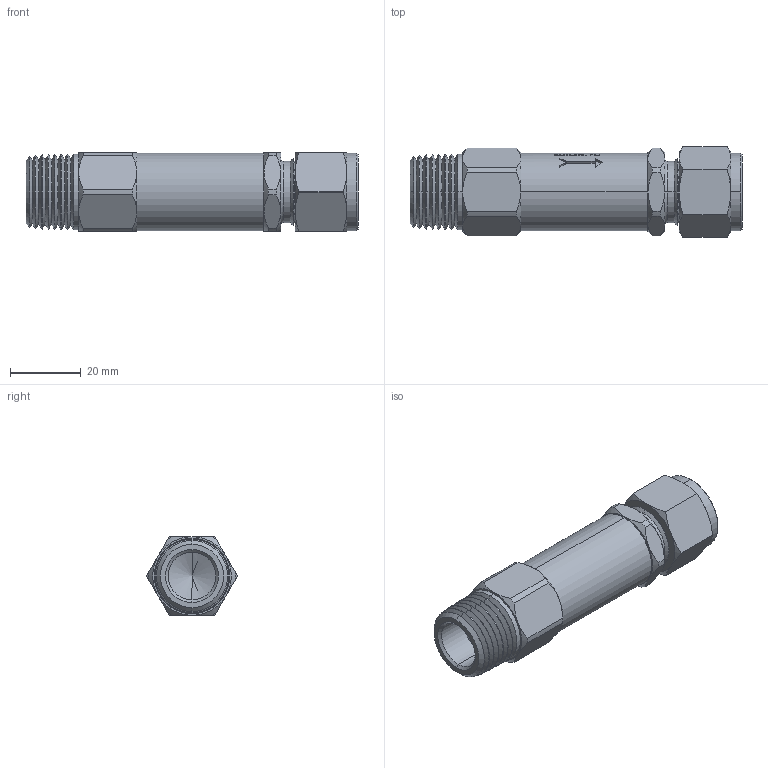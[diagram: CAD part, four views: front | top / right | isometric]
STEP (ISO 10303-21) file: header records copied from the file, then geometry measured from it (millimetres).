
FILE_DESCRIPTION (( 'STEP AP203' ), '1' );
FILE_NAME ('IRV8T.STEP', '2020-08-13T14:52:44', ( '' ), ( '' ), 'SwSTEP 2.0', 'SolidWorks 2020', '' );
FILE_SCHEMA (( 'CONFIG_CONTROL_DESIGN' ));
Length unit declared in the file: inch
Products named in the file (2): Part4^IRV8T; IRV8T
Assembly tree (1 placements, depth 2):
  IRV8T
    Part4^IRV8T
Bounding box: 93.83 x 25.65 x 22.23 mm (x, y, z)
Volume: 30837.2 mm3; surface area: 9829.9 mm2
Topology: 1 solids, 1 shells, 394 faces, 974 edges, 610 vertices
Faces by surface type: plane 157, cone 104, bspline 70, cylinder 61, torus 2
Entity records: 16567 total; most frequent: CARTESIAN_POINT 7645, ORIENTED_EDGE 1940, DIRECTION 1612, EDGE_CURVE 970, AXIS2_PLACEMENT_3D 624, VERTEX_POINT 610, EDGE_LOOP 426, FACE_OUTER_BOUND 394
